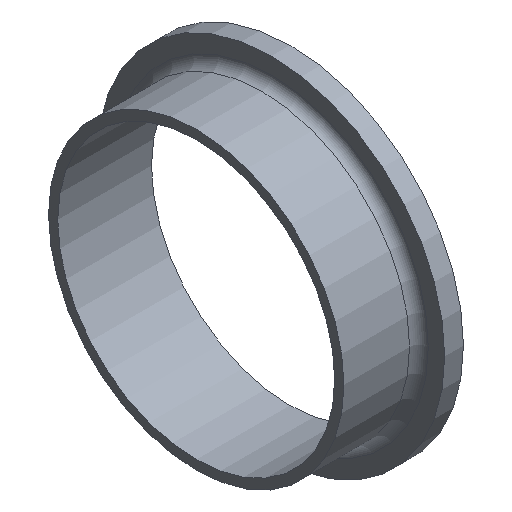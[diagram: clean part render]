
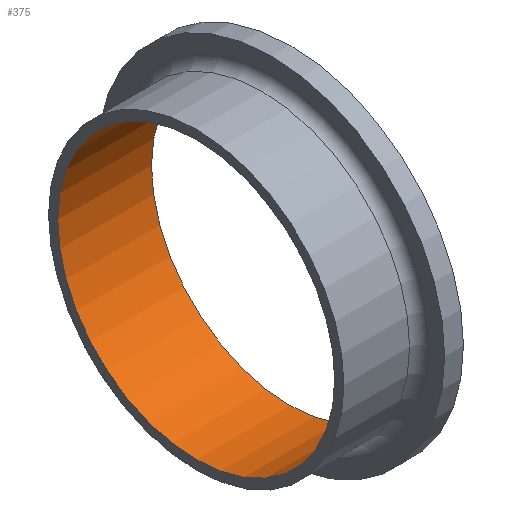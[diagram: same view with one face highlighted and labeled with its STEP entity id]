
A CAD part, isometric view. The second image highlights one B-rep face of the part: STEP entity #375.
In plain terms, the highlighted cylindrical face has radius 147.7 mm (diameter 295.4 mm), a full revolution.
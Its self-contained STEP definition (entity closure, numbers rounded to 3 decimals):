
#344=CARTESIAN_POINT('',(100.0,147.7,0.0));
#345=VERTEX_POINT('',#344);
#346=CARTESIAN_POINT('',(100.,0.,0.0));
#347=DIRECTION('',(1.0,0.0,0.0));
#348=DIRECTION('',(0.0,1.0,0.0));
#349=AXIS2_PLACEMENT_3D('',#346,#347,#348);
#350=CIRCLE('',#349,147.7);
#351=EDGE_CURVE('',#345,#345,#350,.T.);
#356=CARTESIAN_POINT('',(50.,0.,0.0));
#357=DIRECTION('',(1.0,0.,0.0));
#358=DIRECTION('',(0.0,1.0,0.0));
#359=AXIS2_PLACEMENT_3D('',#356,#357,#358);
#360=CYLINDRICAL_SURFACE('',#359,147.7);
#361=CARTESIAN_POINT('',(0.0,147.7,0.0));
#362=VERTEX_POINT('',#361);
#363=CARTESIAN_POINT('',(0.,0.,0.0));
#364=DIRECTION('',(1.0,0.0,0.0));
#365=DIRECTION('',(0.0,1.0,0.0));
#366=AXIS2_PLACEMENT_3D('',#363,#364,#365);
#367=CIRCLE('',#366,147.7);
#368=EDGE_CURVE('',#362,#362,#367,.T.);
#369=ORIENTED_EDGE('',*,*,#368,.F.);
#370=EDGE_LOOP('',(#369));
#371=FACE_OUTER_BOUND('',#370,.T.);
#372=ORIENTED_EDGE('',*,*,#351,.T.);
#373=EDGE_LOOP('',(#372));
#374=FACE_BOUND('',#373,.T.);
#375=ADVANCED_FACE('',(#371,#374),#360,.F.);
